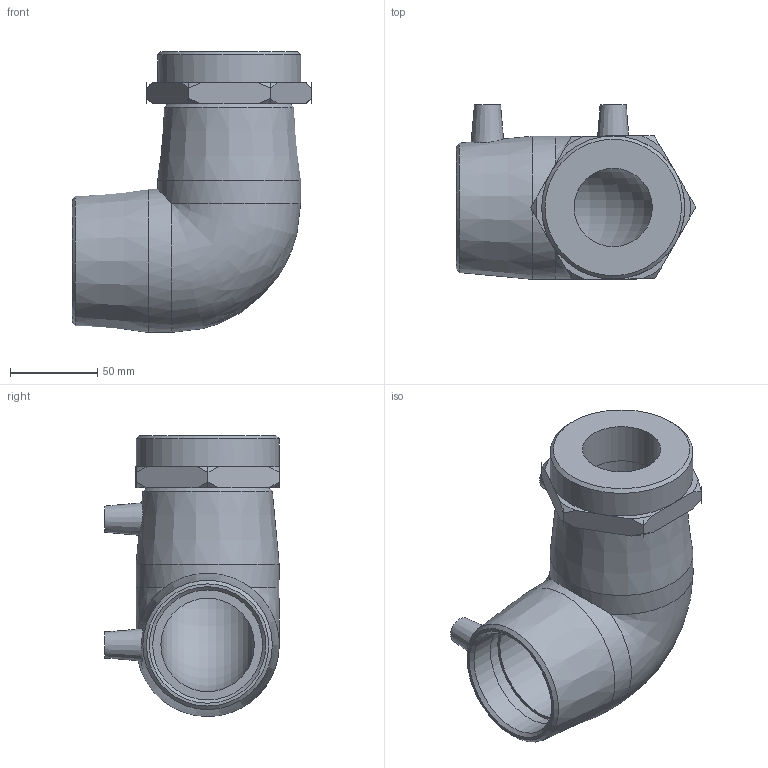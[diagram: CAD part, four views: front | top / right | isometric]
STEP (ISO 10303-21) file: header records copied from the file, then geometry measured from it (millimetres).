
FILE_DESCRIPTION(/* description */ ('PLASSON 90° ELBOW FEMALE TRANSITION 63-1.1/2'''''),/* implementation_level */ '2;1');
FILE_NAME(/* name */ 'C:\Dropbox\KIMPROJECTS-Inventor\99-16-3568-Processing\ElectroFusion Fittings\02.02.20\493504\493504063015.ipt.stp',/* time_stamp */ '2020-02-02T12:34:36+02:00',/* author */ ('KIM'),/* organization */ (''),/* preprocessor_version */ 'ST-DEVELOPER v15.6',/* originating_system */ 'Autodesk Inventor 2015',/* authorisation */ '');
FILE_SCHEMA (('AUTOMOTIVE_DESIGN { 1 0 10303 214 3 1 1 }'));
Length unit declared in the file: millimetre
Products named in the file (1): 493504063015
Bounding box: 137.34 x 100.11 x 161 mm (x, y, z)
Volume: 555833 mm3; surface area: 99184.7 mm2
Topology: 1 solids, 2 shells, 88 faces, 218 edges, 141 vertices
Faces by surface type: plane 39, cylinder 25, cone 22, bspline 1, torus 1
Full cylindrical faces by diameter (mm): 4 x2, 10 x2, 44.845 x1, 48 x1, 63 x4, 82 x3
Entity records: 2555 total; most frequent: CARTESIAN_POINT 536, DIRECTION 408, ORIENTED_EDGE 356, EDGE_CURVE 178, AXIS2_PLACEMENT_3D 168, VERTEX_POINT 129, EDGE_LOOP 127, STYLED_ITEM 89
